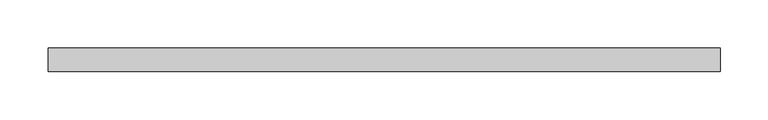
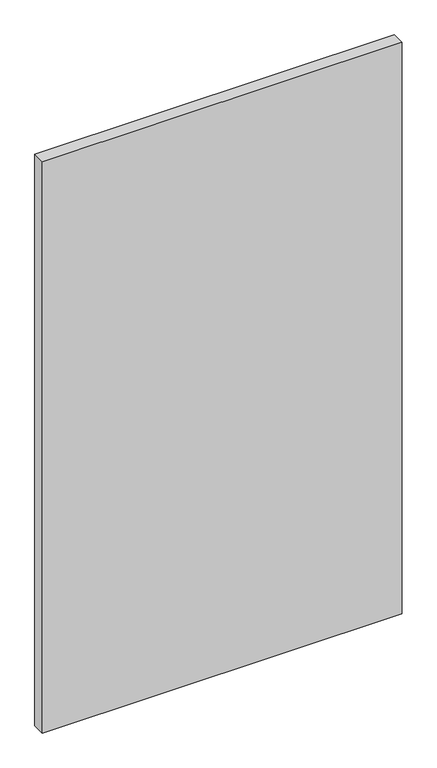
"""IFC4 building model written with IfcOpenShell, lengths in millimetres: plate geometry, Системная панель : С остеклением."""

from ifc_helpers import new_model, si_unit, origin, origin_with_axes, place, context, project, spatial, polyline, outline, extrude, source, transform, mapped, element, save


def plate_2f013cb5(model_context):
    return source(origin(), model_context, "Body", "SweptSolid", [
        extrude(outline(polyline([(350.0, 24.5), (-350.0, 24.5), (-350.0, 49.5), (350.0, 49.5), (350.0, 24.5)])), origin_with_axes(), (0.0, 0.0, 1.0), 1175.0),
    ])


if __name__ == "__main__":
    model = new_model("IFC4")
    model_context = context("Model", 3, world=origin())
    ifc_project = project(units=[si_unit("LENGTHUNIT", "METRE", prefix="MILLI")], contexts=[model_context])
    site = spatial("IfcSite", under=ifc_project)
    building = spatial("IfcBuilding", under=site)
    placement = place(None, origin())
    plate_shape = plate_2f013cb5(model_context)
    element("IfcPlate", 1, ObjectType="Системная панель : С остеклением", at=placement, inside=building, context=model_context, shape_type="MappedRepresentation", body=[
        mapped(plate_shape, transform((0.0, 0.0, 0.0), x_axis=(1.0, 0.0, 0.0), y_axis=(0.0, 1.0, 0.0), z_axis=(0.0, 0.0, 1.0))),
    ])
    save(model, "model.ifc")
